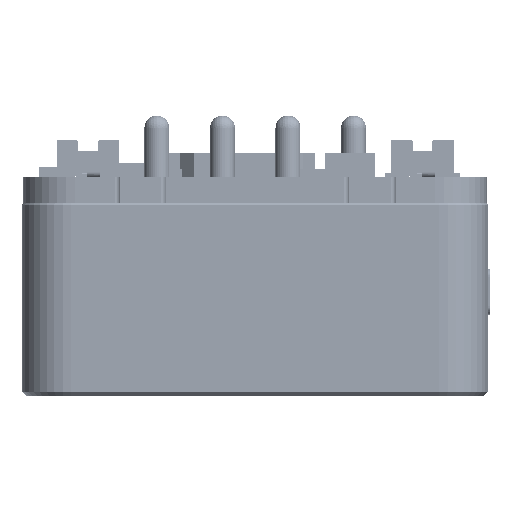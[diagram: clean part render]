
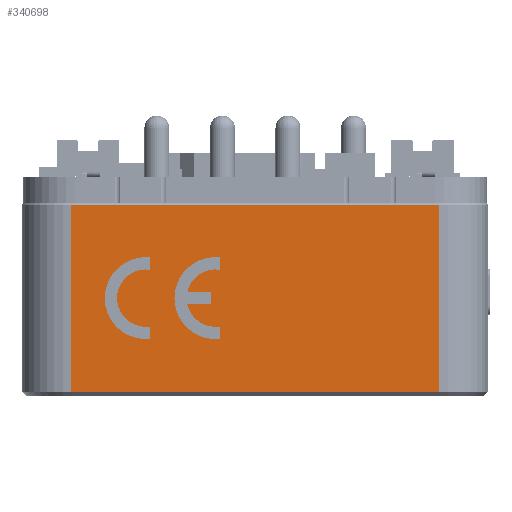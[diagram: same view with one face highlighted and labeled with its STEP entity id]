
A CAD part, left-side view. The second image highlights one B-rep face of the part: STEP entity #340698.
In plain terms, the highlighted planar face has unit normal (-1, 0, 0) as drawn and (1, 0, 0) by its records, which use the part's own axes.
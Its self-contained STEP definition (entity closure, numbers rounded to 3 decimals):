
#7540 = EDGE_CURVE ( 'NONE', #64696, #584595, #360612, .T. ) ;
#15625 = VERTEX_POINT ( 'NONE', #252551 ) ;
#21835 = LINE ( 'NONE', #561585, #77726 ) ;
#24471 = CIRCLE ( 'NONE', #227486, 1.75 ) ;
#25254 = ORIENTED_EDGE ( 'NONE', *, *, #644157, .T. ) ;
#35075 = LINE ( 'NONE', #333060, #630625 ) ;
#36421 = CARTESIAN_POINT ( 'NONE',  ( 36.95, 6.375, -11.55 ) ) ;
#48607 = CARTESIAN_POINT ( 'NONE',  ( 36.95, 5.625, -11.55 ) ) ;
#61183 = VERTEX_POINT ( 'NONE', #716075 ) ;
#64696 = VERTEX_POINT ( 'NONE', #209807 ) ;
#67343 = EDGE_CURVE ( 'NONE', #381418, #760815, #738206, .T. ) ;
#77726 = VECTOR ( 'NONE', #81446, 1000. ) ;
#79668 = CARTESIAN_POINT ( 'NONE',  ( 36.95, 6., -11.8 ) ) ;
#81446 = DIRECTION ( 'NONE',  ( 0., 0., -1. ) ) ;
#82851 = DIRECTION ( 'NONE',  ( 0., 1., 0. ) ) ;
#107383 = DIRECTION ( 'NONE',  ( 0., 0., 1. ) ) ;
#108384 = EDGE_CURVE ( 'NONE', #584595, #15625, #219030, .T. ) ;
#110185 = CARTESIAN_POINT ( 'NONE',  ( 36.95, 8.487, -12.05 ) ) ;
#115202 = ORIENTED_EDGE ( 'NONE', *, *, #438568, .F. ) ;
#119658 = EDGE_CURVE ( 'NONE', #387776, #64696, #35075, .T. ) ;
#119686 = AXIS2_PLACEMENT_3D ( 'NONE', #205662, #447800, #146138 ) ;
#136631 = LINE ( 'NONE', #624570, #737801 ) ;
#138546 = LINE ( 'NONE', #749468, #656540 ) ;
#139522 = CARTESIAN_POINT ( 'NONE',  ( 36.95, 0.3, -25.45 ) ) ;
#144467 = DIRECTION ( 'NONE',  ( 0., -1., 0. ) ) ;
#146138 = DIRECTION ( 'NONE',  ( 0., 0., 1. ) ) ;
#146561 = DIRECTION ( 'NONE',  ( 0., 1., 0. ) ) ;
#147546 = ORIENTED_EDGE ( 'NONE', *, *, #715672, .F. ) ;
#147663 = EDGE_CURVE ( 'NONE', #15625, #387776, #247311, .T. ) ;
#149008 = DIRECTION ( 'NONE',  ( 0., 0., 1. ) ) ;
#154832 = FACE_OUTER_BOUND ( 'NONE', #579141, .T. ) ;
#157544 = VECTOR ( 'NONE', #405017, 1000. ) ;
#163580 = EDGE_CURVE ( 'NONE', #363262, #359403, #401699, .T. ) ;
#195520 = ORIENTED_EDGE ( 'NONE', *, *, #242464, .T. ) ;
#196711 = ORIENTED_EDGE ( 'NONE', *, *, #67343, .F. ) ;
#203192 = EDGE_LOOP ( 'NONE', ( #675540, #568179, #628637, #623471 ) ) ;
#205662 = CARTESIAN_POINT ( 'NONE',  ( 36.95, 6., -7.55 ) ) ;
#209807 = CARTESIAN_POINT ( 'NONE',  ( 36.95, 8.487, -7.8 ) ) ;
#209936 = VERTEX_POINT ( 'NONE', #348216 ) ;
#214970 = CARTESIAN_POINT ( 'NONE',  ( 36.95, 8.487, -12.05 ) ) ;
#219030 = LINE ( 'NONE', #461170, #609362 ) ;
#223591 = CARTESIAN_POINT ( 'NONE',  ( 36.95, 7.732, -12.05 ) ) ;
#227486 = AXIS2_PLACEMENT_3D ( 'NONE', #771455, #227899, #711776 ) ;
#227899 = DIRECTION ( 'NONE',  ( -1., 0., 0. ) ) ;
#230197 = LINE ( 'NONE', #539349, #157544 ) ;
#240464 = DIRECTION ( 'NONE',  ( 0., 0., 1. ) ) ;
#242464 = EDGE_CURVE ( 'NONE', #784461, #549369, #672067, .T. ) ;
#247311 = CIRCLE ( 'NONE', #602139, 1.75 ) ;
#252551 = CARTESIAN_POINT ( 'NONE',  ( 36.95, 4.268, -7.8 ) ) ;
#255151 = VERTEX_POINT ( 'NONE', #352942 ) ;
#268151 = LINE ( 'NONE', #692471, #650171 ) ;
#282043 = VERTEX_POINT ( 'NONE', #110185 ) ;
#297641 = ORIENTED_EDGE ( 'NONE', *, *, #747663, .F. ) ;
#322218 = VECTOR ( 'NONE', #397792, 1000. ) ;
#330196 = EDGE_CURVE ( 'NONE', #61183, #209936, #136631, .T. ) ;
#333060 = CARTESIAN_POINT ( 'NONE',  ( 36.95, 8.487, -7.8 ) ) ;
#334408 = AXIS2_PLACEMENT_3D ( 'NONE', #79668, #623338, #512128 ) ;
#336269 = EDGE_CURVE ( 'NONE', #760815, #282043, #758534, .T. ) ;
#337502 = CARTESIAN_POINT ( 'NONE',  ( 36.95, 11.8, 0. ) ) ;
#340698 = ADVANCED_FACE ( 'NONE', ( #638883, #523638, #154832 ), #527548, .F. ) ;
#348216 = CARTESIAN_POINT ( 'NONE',  ( 36.95, 0.3, -3. ) ) ;
#349524 = VECTOR ( 'NONE', #631640, 1000. ) ;
#352942 = CARTESIAN_POINT ( 'NONE',  ( 36.95, 3.513, -12.05 ) ) ;
#355710 = CARTESIAN_POINT ( 'NONE',  ( 36.95, 6., -7.55 ) ) ;
#357306 = LINE ( 'NONE', #714244, #628184 ) ;
#359403 = VERTEX_POINT ( 'NONE', #379986 ) ;
#360612 = CIRCLE ( 'NONE', #119686, 2.5 ) ;
#363262 = VERTEX_POINT ( 'NONE', #48607 ) ;
#379986 = CARTESIAN_POINT ( 'NONE',  ( 36.95, 6.375, -11.55 ) ) ;
#381418 = VERTEX_POINT ( 'NONE', #689838 ) ;
#387776 = VERTEX_POINT ( 'NONE', #520348 ) ;
#395779 = VECTOR ( 'NONE', #664339, 1000. ) ;
#396319 = AXIS2_PLACEMENT_3D ( 'NONE', #506983, #744988, #737121 ) ;
#397792 = DIRECTION ( 'NONE',  ( 0., 1., 0. ) ) ;
#401699 = LINE ( 'NONE', #36421, #322218 ) ;
#405017 = DIRECTION ( 'NONE',  ( 0., 0., -1. ) ) ;
#416113 = CARTESIAN_POINT ( 'NONE',  ( 36.95, 11.7, -25.45 ) ) ;
#438568 = EDGE_CURVE ( 'NONE', #542965, #363262, #21835, .T. ) ;
#447800 = DIRECTION ( 'NONE',  ( 1., 0., 0. ) ) ;
#461170 = CARTESIAN_POINT ( 'NONE',  ( 36.95, 4.268, -7.8 ) ) ;
#466894 = ORIENTED_EDGE ( 'NONE', *, *, #330196, .T. ) ;
#468252 = DIRECTION ( 'NONE',  ( 0., 0., 1. ) ) ;
#487647 = EDGE_CURVE ( 'NONE', #520352, #542965, #24471, .T. ) ;
#506983 = CARTESIAN_POINT ( 'NONE',  ( 36.95, 6., -11.8 ) ) ;
#512128 = DIRECTION ( 'NONE',  ( 0., 0., -1. ) ) ;
#512485 = AXIS2_PLACEMENT_3D ( 'NONE', #337502, #694448, #468252 ) ;
#519569 = CARTESIAN_POINT ( 'NONE',  ( 36.95, 5.625, -10.091 ) ) ;
#520348 = CARTESIAN_POINT ( 'NONE',  ( 36.95, 7.732, -7.8 ) ) ;
#520352 = VERTEX_POINT ( 'NONE', #550746 ) ;
#523638 = FACE_BOUND ( 'NONE', #732396, .T. ) ;
#527548 = PLANE ( 'NONE',  #512485 ) ;
#539349 = CARTESIAN_POINT ( 'NONE',  ( 36.95, 0.3, -25.45 ) ) ;
#542965 = VERTEX_POINT ( 'NONE', #519569 ) ;
#549369 = VERTEX_POINT ( 'NONE', #416113 ) ;
#550746 = CARTESIAN_POINT ( 'NONE',  ( 36.95, 4.268, -12.05 ) ) ;
#558474 = EDGE_CURVE ( 'NONE', #549369, #61183, #268151, .T. ) ;
#561585 = CARTESIAN_POINT ( 'NONE',  ( 36.95, 5.625, -10.091 ) ) ;
#568179 = ORIENTED_EDGE ( 'NONE', *, *, #7540, .F. ) ;
#579141 = EDGE_LOOP ( 'NONE', ( #195520, #621066, #466894, #25254 ) ) ;
#581349 = CARTESIAN_POINT ( 'NONE',  ( 36.95, 3.513, -7.8 ) ) ;
#584595 = VERTEX_POINT ( 'NONE', #581349 ) ;
#588886 = ORIENTED_EDGE ( 'NONE', *, *, #487647, .F. ) ;
#602139 = AXIS2_PLACEMENT_3D ( 'NONE', #355710, #720400, #240464 ) ;
#609362 = VECTOR ( 'NONE', #758715, 1000. ) ;
#610508 = ORIENTED_EDGE ( 'NONE', *, *, #163580, .F. ) ;
#621066 = ORIENTED_EDGE ( 'NONE', *, *, #558474, .T. ) ;
#623338 = DIRECTION ( 'NONE',  ( 1., 0., 0. ) ) ;
#623471 = ORIENTED_EDGE ( 'NONE', *, *, #147663, .F. ) ;
#624570 = CARTESIAN_POINT ( 'NONE',  ( 36.95, 11.8, -3. ) ) ;
#628184 = VECTOR ( 'NONE', #107383, 1000. ) ;
#628637 = ORIENTED_EDGE ( 'NONE', *, *, #119658, .F. ) ;
#630625 = VECTOR ( 'NONE', #146561, 1000. ) ;
#631640 = DIRECTION ( 'NONE',  ( 0., 1., 0. ) ) ;
#638883 = FACE_BOUND ( 'NONE', #203192, .T. ) ;
#644080 = EDGE_CURVE ( 'NONE', #282043, #255151, #676191, .T. ) ;
#644157 = EDGE_CURVE ( 'NONE', #209936, #784461, #230197, .T. ) ;
#650171 = VECTOR ( 'NONE', #149008, 1000. ) ;
#656540 = VECTOR ( 'NONE', #82851, 1000. ) ;
#664339 = DIRECTION ( 'NONE',  ( 0., 1., 0. ) ) ;
#672067 = LINE ( 'NONE', #675968, #395779 ) ;
#675540 = ORIENTED_EDGE ( 'NONE', *, *, #108384, .F. ) ;
#675968 = CARTESIAN_POINT ( 'NONE',  ( 36.95, 11.8, -25.45 ) ) ;
#676191 = CIRCLE ( 'NONE', #334408, 2.5 ) ;
#689838 = CARTESIAN_POINT ( 'NONE',  ( 36.95, 6.375, -10.091 ) ) ;
#692471 = CARTESIAN_POINT ( 'NONE',  ( 36.95, 11.7, 0. ) ) ;
#694448 = DIRECTION ( 'NONE',  ( -1., 0., 0. ) ) ;
#697035 = ORIENTED_EDGE ( 'NONE', *, *, #644080, .F. ) ;
#711776 = DIRECTION ( 'NONE',  ( 0., 0., -1. ) ) ;
#714244 = CARTESIAN_POINT ( 'NONE',  ( 36.95, 6.375, -10.091 ) ) ;
#715672 = EDGE_CURVE ( 'NONE', #359403, #381418, #357306, .T. ) ;
#716075 = CARTESIAN_POINT ( 'NONE',  ( 36.95, 11.7, -3. ) ) ;
#720400 = DIRECTION ( 'NONE',  ( -1., 0., 0. ) ) ;
#725202 = ORIENTED_EDGE ( 'NONE', *, *, #336269, .F. ) ;
#732396 = EDGE_LOOP ( 'NONE', ( #725202, #196711, #147546, #610508, #115202, #588886, #297641, #697035 ) ) ;
#737121 = DIRECTION ( 'NONE',  ( 0., 0., -1. ) ) ;
#737801 = VECTOR ( 'NONE', #144467, 1000. ) ;
#738206 = CIRCLE ( 'NONE', #396319, 1.75 ) ;
#744988 = DIRECTION ( 'NONE',  ( -1., 0., 0. ) ) ;
#747663 = EDGE_CURVE ( 'NONE', #255151, #520352, #138546, .T. ) ;
#749468 = CARTESIAN_POINT ( 'NONE',  ( 36.95, 4.268, -12.05 ) ) ;
#758534 = LINE ( 'NONE', #214970, #349524 ) ;
#758715 = DIRECTION ( 'NONE',  ( 0., 1., 0. ) ) ;
#760815 = VERTEX_POINT ( 'NONE', #223591 ) ;
#771455 = CARTESIAN_POINT ( 'NONE',  ( 36.95, 6., -11.8 ) ) ;
#784461 = VERTEX_POINT ( 'NONE', #139522 ) ;
